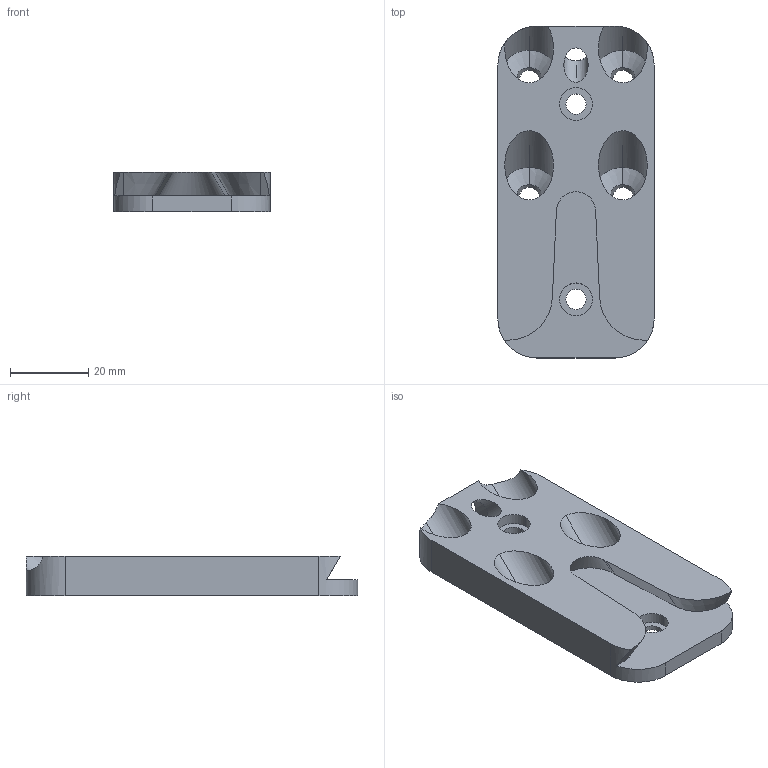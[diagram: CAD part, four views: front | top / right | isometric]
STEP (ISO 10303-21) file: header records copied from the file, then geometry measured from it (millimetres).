
FILE_DESCRIPTION (( 'STEP AP203' ), '1' );
FILE_NAME ('UV_30_NT_Holz.STEP', '2019-03-19T09:16:56', ( '' ), ( '' ), 'SwSTEP 2.0', 'SolidWorks 2013', '' );
FILE_SCHEMA (( 'CONFIG_CONTROL_DESIGN' ));
Length unit declared in the file: millimetre
Products named in the file (1): UV_30_NT_Holz
Bounding box: 40 x 85 x 10 mm (x, y, z)
Volume: 22375 mm3; surface area: 10981.8 mm2
Topology: 1 solids, 1 shells, 60 faces, 157 edges, 98 vertices
Faces by surface type: cylinder 32, plane 13, cone 12, bspline 3
Entity records: 2110 total; most frequent: CARTESIAN_POINT 607, ORIENTED_EDGE 314, DIRECTION 283, EDGE_CURVE 157, AXIS2_PLACEMENT_3D 108, VERTEX_POINT 98, EDGE_LOOP 73, VECTOR 67
